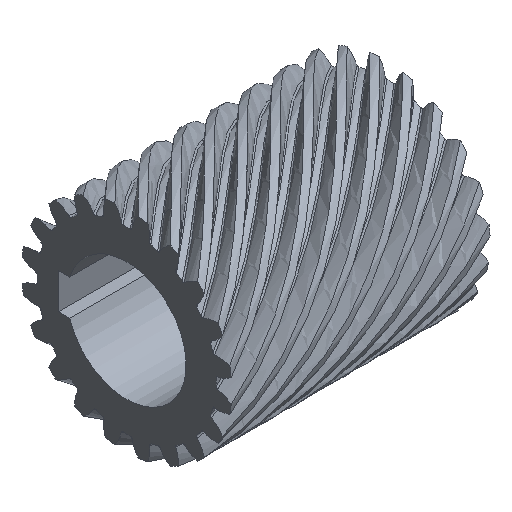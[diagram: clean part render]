
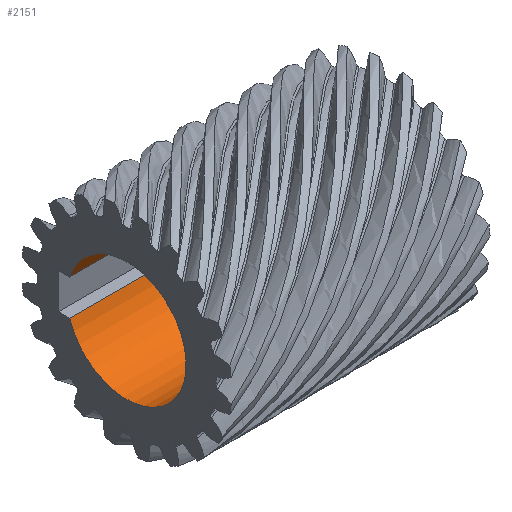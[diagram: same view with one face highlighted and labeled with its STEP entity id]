
A CAD part, isometric view. The second image highlights one B-rep face of the part: STEP entity #2151.
In plain terms, the highlighted cylindrical face has radius 30 mm (diameter 60 mm), a partial arc.
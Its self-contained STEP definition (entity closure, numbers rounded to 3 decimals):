
#206=LINE('',#6720,#216);
#207=LINE('',#6723,#217);
#216=VECTOR('',#2631,10.);
#217=VECTOR('',#2634,10.);
#234=FACE_OUTER_BOUND('',#360,.T.);
#360=EDGE_LOOP('',(#1390,#1391,#1392,#1393));
#496=CIRCLE('',#2314,30.);
#497=CIRCLE('',#2315,30.);
#770=VERTEX_POINT('',#6716);
#771=VERTEX_POINT('',#6717);
#772=VERTEX_POINT('',#6719);
#773=VERTEX_POINT('',#6721);
#1018=EDGE_CURVE('',#770,#771,#496,.T.);
#1019=EDGE_CURVE('',#771,#772,#206,.T.);
#1020=EDGE_CURVE('',#772,#773,#497,.T.);
#1021=EDGE_CURVE('',#773,#770,#207,.T.);
#1390=ORIENTED_EDGE('',*,*,#1018,.T.);
#1391=ORIENTED_EDGE('',*,*,#1019,.T.);
#1392=ORIENTED_EDGE('',*,*,#1020,.T.);
#1393=ORIENTED_EDGE('',*,*,#1021,.T.);
#2110=CYLINDRICAL_SURFACE('',#2313,30.);
#2151=ADVANCED_FACE('',(#234),#2110,.F.);
#2313=AXIS2_PLACEMENT_3D('',#6715,#2627,#2628);
#2314=AXIS2_PLACEMENT_3D('',#6718,#2629,#2630);
#2315=AXIS2_PLACEMENT_3D('',#6722,#2632,#2633);
#2627=DIRECTION('center_axis',(-1.,0.,0.));
#2628=DIRECTION('ref_axis',(0.,-1.,0.));
#2629=DIRECTION('center_axis',(1.,0.,0.));
#2630=DIRECTION('ref_axis',(0.,0.954,-0.3));
#2631=DIRECTION('',(-1.,0.,0.));
#2632=DIRECTION('center_axis',(-1.,0.,0.));
#2633=DIRECTION('ref_axis',(0.,0.954,0.3));
#2634=DIRECTION('',(1.,0.,0.));
#6715=CARTESIAN_POINT('Origin',(65.,0.,0.));
#6716=CARTESIAN_POINT('',(130.,28.618,9.));
#6717=CARTESIAN_POINT('',(130.,28.618,-9.));
#6718=CARTESIAN_POINT('Origin',(130.,0.,0.));
#6719=CARTESIAN_POINT('',(0.,28.618,-9.));
#6720=CARTESIAN_POINT('',(130.,28.618,-9.));
#6721=CARTESIAN_POINT('',(0.,28.618,9.));
#6722=CARTESIAN_POINT('Origin',(0.,0.,0.));
#6723=CARTESIAN_POINT('',(0.,28.618,9.));
